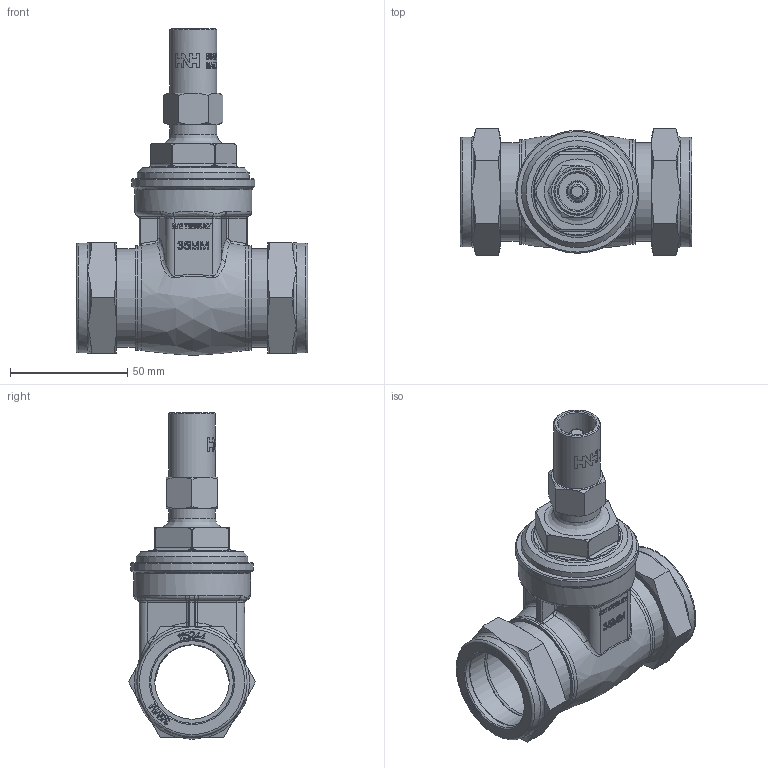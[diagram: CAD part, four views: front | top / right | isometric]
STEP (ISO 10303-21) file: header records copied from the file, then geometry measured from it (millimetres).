
FILE_DESCRIPTION((''),'2;1');
FILE_NAME('P:\Fastrack\53972_CRANE 3D\Gate Valves\Work Space\Lockshield\30CLS_35mm\30CLS_35mm.stp','2011-03-09T12:47:16',('btaylor'),(''),'Autodesk Inventor 2008','Autodesk Inventor 2008','');
FILE_SCHEMA(('AUTOMOTIVE_DESIGN { 1 0 10303 214 1 1 1 1 }'));
Length unit declared in the file: millimetre
Products named in the file (1): 30CLS_35mm
Bounding box: 99.01 x 54.27 x 139.5 mm (x, y, z)
Volume: 150896.2 mm3; surface area: 51569 mm2
Topology: 1 solids, 1 shells, 1199 faces, 3172 edges, 2070 vertices
Faces by surface type: plane 601, bspline 425, cylinder 107, cone 50, torus 16
Full cylindrical faces by diameter (mm): 6.007 x1, 9 x1, 9.5 x1, 16 x1, 18.376 x1, 20 x2, 35.223 x1, 35.225 x1, 35.3 x4, 41.998 x1, 42 x3, 44.598 x1, 44.6 x1, 46.9 x2, 47.7 x1, 50 x1, 52.5 x1
Entity records: 94309 total; most frequent: CARTESIAN_POINT 67003, ORIENTED_EDGE 6144, DIRECTION 3921, EDGE_CURVE 3072, VERTEX_POINT 2042, VECTOR 1653, LINE 1653, EDGE_LOOP 1364
